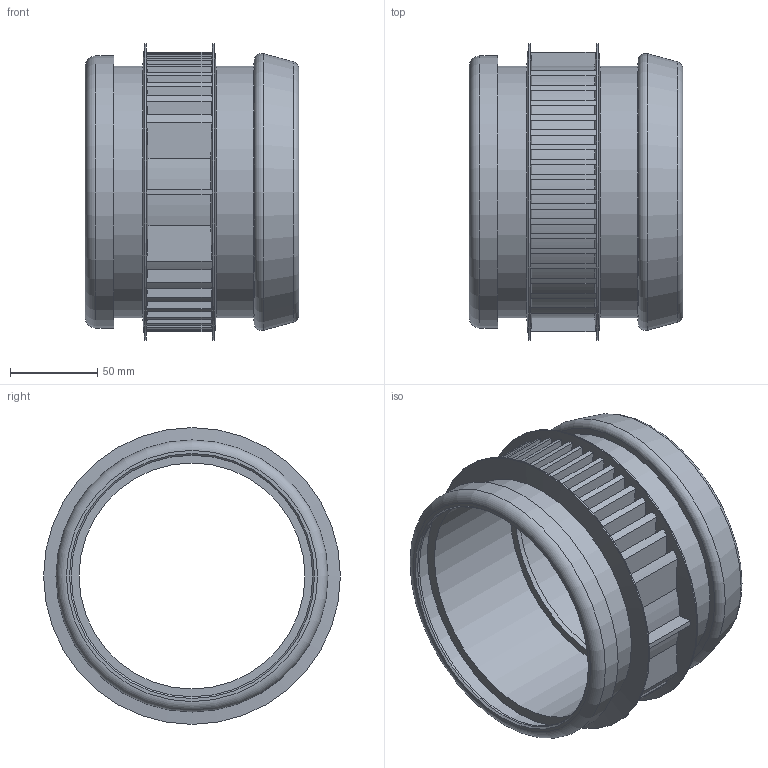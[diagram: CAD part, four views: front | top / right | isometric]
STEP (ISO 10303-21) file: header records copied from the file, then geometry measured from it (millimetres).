
FILE_DESCRIPTION(/* description */ (''),/* implementation_level */ '2;1');
FILE_NAME(/* name */ 'Z:\Geberit\Export\NewStep\312002.stp',/* time_stamp */ '2014-04-01T20:09:23+02:00',/* author */ ('ML'),/* organization */ (''),/* preprocessor_version */ 'ST-DEVELOPER v15.2',/* originating_system */ 'Autodesk Inventor 2014',/* authorisation */ '');
FILE_SCHEMA (('AUTOMOTIVE_DESIGN { 1 0 10303 214 3 1 1 }'));
Length unit declared in the file: millimetre
Products named in the file (1): 312002
Bounding box: 122.22 x 170 x 170 mm (x, y, z)
Volume: 265928.7 mm3; surface area: 179624.9 mm2
Topology: 1 solids, 1 shells, 176 faces, 491 edges, 321 vertices
Faces by surface type: cylinder 83, plane 78, cone 11, torus 4
Full cylindrical faces by diameter (mm): 129.42 x1, 138.3 x4, 144.3 x2, 149.9 x1, 155.8 x1, 170 x2
Entity records: 5587 total; most frequent: CARTESIAN_POINT 1247, ORIENTED_EDGE 926, DIRECTION 848, EDGE_CURVE 463, AXIS2_PLACEMENT_3D 352, VERTEX_POINT 319, EDGE_LOOP 208, STYLED_ITEM 177
